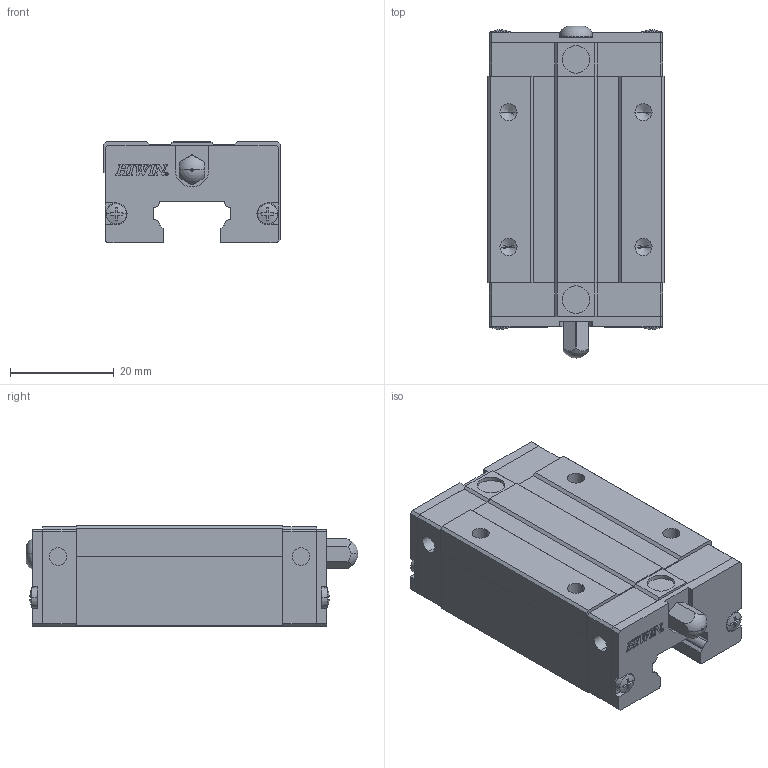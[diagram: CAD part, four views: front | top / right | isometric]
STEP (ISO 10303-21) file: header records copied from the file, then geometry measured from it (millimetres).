
FILE_DESCRIPTION(('no description'),'unknown implementation level');
FILE_NAME('EGH15CA_Z0_H_SS_FILE_1.stp',' ',('HIWIN GmbH'),('CADClick - KiM GmbH - www.kimweb.de'),'unknown preprocess','ACIS','unknown authorization');
FILE_SCHEMA(('automotive_design'));
Length unit declared in the file: millimetre
Products named in the file (1): EGH15CA Z0 H SS_FILE
Bounding box: 34 x 63.99 x 19.5 mm (x, y, z)
Volume: 30354 mm3; surface area: 9120.9 mm2
Topology: 1 solids, 4 shells, 594 faces, 1637 edges, 1077 vertices
Faces by surface type: plane 424, cylinder 138, cone 28, sphere 2, torus 2
Entity records: 37018 total; most frequent: CARTESIAN_POINT 3493, STYLED_ITEM 3301, PRESENTATION_STYLE_ASSIGNMENT 3301, COLOUR_RGB 3301, ORIENTED_EDGE 3258, DIRECTION 3060, EDGE_CURVE 1629, CURVE_STYLE 1629
